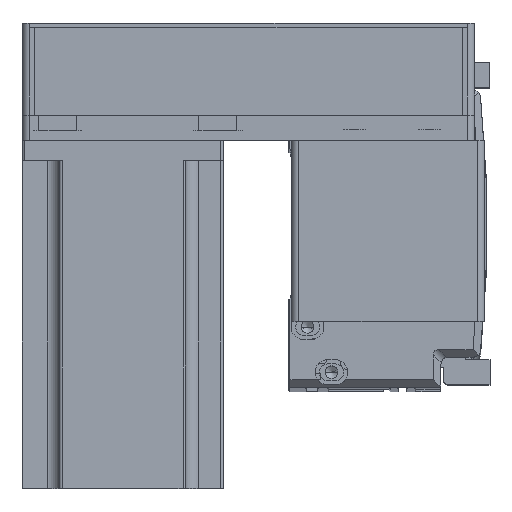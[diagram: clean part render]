
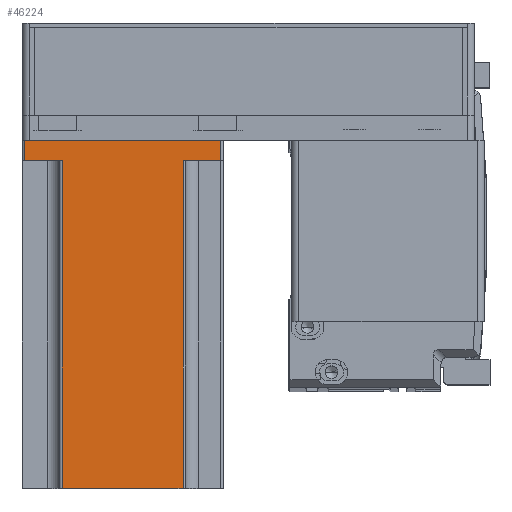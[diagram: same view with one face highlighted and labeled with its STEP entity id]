
A CAD part, top view. The second image highlights one B-rep face of the part: STEP entity #46224.
In plain terms, the highlighted planar face has unit normal (0, 0, 1) as drawn and (0, 1, 0) by its records, which use the part's own axes.
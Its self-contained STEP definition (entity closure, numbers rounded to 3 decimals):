
#477 = VERTEX_POINT ( 'NONE', #49768 ) ;
#999 = FACE_OUTER_BOUND ( 'NONE', #4300, .T. ) ;
#2853 = EDGE_CURVE ( 'NONE', #5648, #43522, #6545, .T. ) ;
#3786 = DIRECTION ( 'NONE',  ( -1., 0., 0. ) ) ;
#4300 = EDGE_LOOP ( 'NONE', ( #40475, #36313, #11926, #6426, #26340, #33573, #40763, #18982 ) ) ;
#5112 = EDGE_CURVE ( 'NONE', #6137, #5648, #16569, .T. ) ;
#5176 = VECTOR ( 'NONE', #38926, 1000. ) ;
#5648 = VERTEX_POINT ( 'NONE', #12106 ) ;
#5899 = VECTOR ( 'NONE', #35412, 1000. ) ;
#6137 = VERTEX_POINT ( 'NONE', #31081 ) ;
#6426 = ORIENTED_EDGE ( 'NONE', *, *, #7176, .T. ) ;
#6545 = LINE ( 'NONE', #46895, #47816 ) ;
#6927 = DIRECTION ( 'NONE',  ( 1., 0., 0. ) ) ;
#6987 = PLANE ( 'NONE',  #34296 ) ;
#7176 = EDGE_CURVE ( 'NONE', #7322, #33314, #16226, .T. ) ;
#7322 = VERTEX_POINT ( 'NONE', #21481 ) ;
#7606 = DIRECTION ( 'NONE',  ( 0., 0., -1. ) ) ;
#9565 = CARTESIAN_POINT ( 'NONE',  ( -24., 40., 8. ) ) ;
#11059 = CARTESIAN_POINT ( 'NONE',  ( 40., 40., 138.3 ) ) ;
#11573 = VECTOR ( 'NONE', #18728, 1000. ) ;
#11926 = ORIENTED_EDGE ( 'NONE', *, *, #38847, .F. ) ;
#12106 = CARTESIAN_POINT ( 'NONE',  ( -39., 40., 8. ) ) ;
#12186 = LINE ( 'NONE', #19306, #21271 ) ;
#12871 = VECTOR ( 'NONE', #3786, 1000. ) ;
#14975 = DIRECTION ( 'NONE',  ( 1., 0., 0. ) ) ;
#15883 = CARTESIAN_POINT ( 'NONE',  ( -24., 40., 138.3 ) ) ;
#16226 = LINE ( 'NONE', #46938, #5899 ) ;
#16569 = LINE ( 'NONE', #24414, #35990 ) ;
#18728 = DIRECTION ( 'NONE',  ( -1., 0., 0. ) ) ;
#18982 = ORIENTED_EDGE ( 'NONE', *, *, #5112, .T. ) ;
#19306 = CARTESIAN_POINT ( 'NONE',  ( 39., 40., 138.3 ) ) ;
#21271 = VECTOR ( 'NONE', #7606, 1000. ) ;
#21481 = CARTESIAN_POINT ( 'NONE',  ( 24., 40., 138.3 ) ) ;
#21979 = LINE ( 'NONE', #38743, #12871 ) ;
#22577 = CARTESIAN_POINT ( 'NONE',  ( 24., 40., 8. ) ) ;
#22688 = VECTOR ( 'NONE', #27589, 1000. ) ;
#24414 = CARTESIAN_POINT ( 'NONE',  ( -39., 40., 138.3 ) ) ;
#26340 = ORIENTED_EDGE ( 'NONE', *, *, #34542, .F. ) ;
#27056 = LINE ( 'NONE', #46564, #5176 ) ;
#27589 = DIRECTION ( 'NONE',  ( 0., 0., 1. ) ) ;
#29536 = CARTESIAN_POINT ( 'NONE',  ( -24., 40., 138.3 ) ) ;
#31081 = CARTESIAN_POINT ( 'NONE',  ( -39., 40., 0. ) ) ;
#33314 = VERTEX_POINT ( 'NONE', #22577 ) ;
#33573 = ORIENTED_EDGE ( 'NONE', *, *, #41133, .T. ) ;
#34250 = LINE ( 'NONE', #15883, #22688 ) ;
#34296 = AXIS2_PLACEMENT_3D ( 'NONE', #11059, #38223, #14975 ) ;
#34542 = EDGE_CURVE ( 'NONE', #477, #33314, #27056, .T. ) ;
#35412 = DIRECTION ( 'NONE',  ( 0., 0., -1. ) ) ;
#35990 = VECTOR ( 'NONE', #43718, 1000. ) ;
#36313 = ORIENTED_EDGE ( 'NONE', *, *, #37860, .T. ) ;
#37860 = EDGE_CURVE ( 'NONE', #43522, #44257, #34250, .T. ) ;
#38051 = CARTESIAN_POINT ( 'NONE',  ( 40., 40., 138.3 ) ) ;
#38223 = DIRECTION ( 'NONE',  ( 0., -1., 0. ) ) ;
#38743 = CARTESIAN_POINT ( 'NONE',  ( 40., 40., 0. ) ) ;
#38847 = EDGE_CURVE ( 'NONE', #7322, #44257, #41324, .T. ) ;
#38926 = DIRECTION ( 'NONE',  ( -1., 0., 0. ) ) ;
#39363 = CARTESIAN_POINT ( 'NONE',  ( 39., 40., 0. ) ) ;
#40475 = ORIENTED_EDGE ( 'NONE', *, *, #2853, .T. ) ;
#40682 = EDGE_CURVE ( 'NONE', #48578, #6137, #21979, .T. ) ;
#40763 = ORIENTED_EDGE ( 'NONE', *, *, #40682, .T. ) ;
#41133 = EDGE_CURVE ( 'NONE', #477, #48578, #12186, .T. ) ;
#41324 = LINE ( 'NONE', #38051, #11573 ) ;
#43522 = VERTEX_POINT ( 'NONE', #9565 ) ;
#43718 = DIRECTION ( 'NONE',  ( 0., 0., 1. ) ) ;
#44257 = VERTEX_POINT ( 'NONE', #29536 ) ;
#46224 = ADVANCED_FACE ( 'NONE', ( #999 ), #6987, .F. ) ;
#46564 = CARTESIAN_POINT ( 'NONE',  ( 25., 40., 8. ) ) ;
#46895 = CARTESIAN_POINT ( 'NONE',  ( -25., 40., 8. ) ) ;
#46938 = CARTESIAN_POINT ( 'NONE',  ( 24., 40., 138.3 ) ) ;
#47816 = VECTOR ( 'NONE', #6927, 1000. ) ;
#48578 = VERTEX_POINT ( 'NONE', #39363 ) ;
#49768 = CARTESIAN_POINT ( 'NONE',  ( 39., 40., 8. ) ) ;
